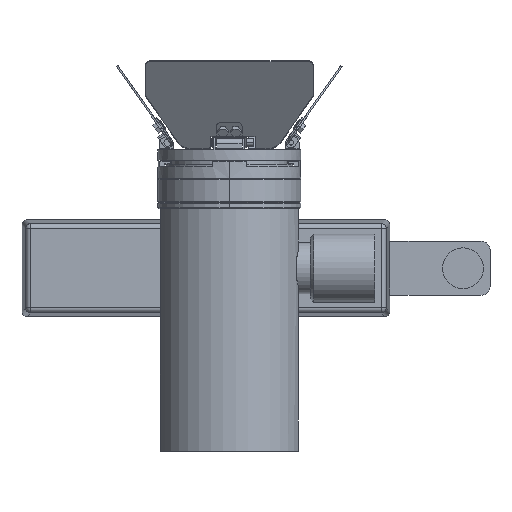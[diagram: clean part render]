
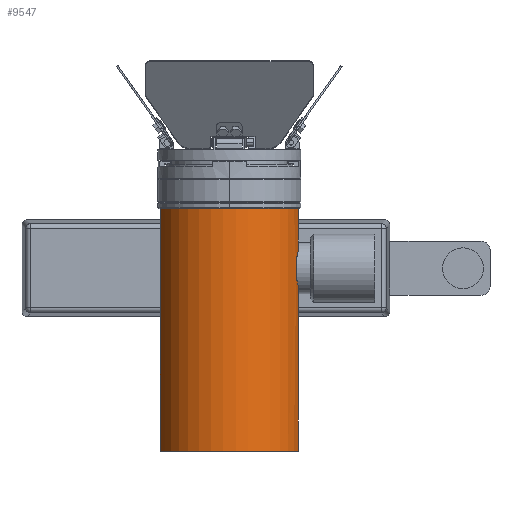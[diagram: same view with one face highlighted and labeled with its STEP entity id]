
A CAD part, front view. The second image highlights one B-rep face of the part: STEP entity #9547.
In plain terms, the highlighted cylindrical face has radius 42 mm (diameter 84 mm), a partial arc.
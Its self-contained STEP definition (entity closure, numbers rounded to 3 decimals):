
#46 = VERTEX_POINT ( 'NONE', #9077 ) ;
#49 = CARTESIAN_POINT ( 'NONE',  ( 39.387, 111.296, 14.586 ) ) ;
#91 = EDGE_CURVE ( 'NONE', #46, #3157, #10838, .T. ) ;
#111 = CARTESIAN_POINT ( 'NONE',  ( 40.367, 117.026, 11.61 ) ) ;
#169 = VERTEX_POINT ( 'NONE', #12995 ) ;
#731 = CARTESIAN_POINT ( 'NONE',  ( -40.5, 0., 11.124 ) ) ;
#997 = ORIENTED_EDGE ( 'NONE', *, *, #3403, .T. ) ;
#1183 = CARTESIAN_POINT ( 'NONE',  ( 39.406, 103.722, 14.535 ) ) ;
#1232 = CARTESIAN_POINT ( 'NONE',  ( 39.711, 101.328, 13.676 ) ) ;
#1360 = CARTESIAN_POINT ( 'NONE',  ( 39.3, 109.843, 14.816 ) ) ;
#1460 = CARTESIAN_POINT ( 'NONE',  ( 39.871, 114.626, 13.204 ) ) ;
#1465 = ORIENTED_EDGE ( 'NONE', *, *, #8514, .T. ) ;
#1781 = CIRCLE ( 'NONE', #13203, 42. ) ;
#2287 = VERTEX_POINT ( 'NONE', #731 ) ;
#2750 = DIRECTION ( 'NONE',  ( 0., -1., 0. ) ) ;
#2776 = EDGE_CURVE ( 'NONE', #46, #9219, #1781, .T. ) ;
#2971 = DIRECTION ( 'NONE',  ( 0., 0., -1. ) ) ;
#3157 = VERTEX_POINT ( 'NONE', #13248 ) ;
#3329 = CARTESIAN_POINT ( 'NONE',  ( -40.5, 142.5, 11.124 ) ) ;
#3403 = EDGE_CURVE ( 'NONE', #10327, #169, #8104, .T. ) ;
#3458 = CARTESIAN_POINT ( 'NONE',  ( 40.5, 97.438, 11.124 ) ) ;
#3502 = ORIENTED_EDGE ( 'NONE', *, *, #16046, .T. ) ;
#3679 = VECTOR ( 'NONE', #12052, 1000. ) ;
#3977 = DIRECTION ( 'NONE',  ( 0., -1., 0. ) ) ;
#3996 = CARTESIAN_POINT ( 'NONE',  ( 40.236, 116.458, 12.053 ) ) ;
#4043 = ORIENTED_EDGE ( 'NONE', *, *, #2776, .T. ) ;
#4165 = CARTESIAN_POINT ( 'NONE',  ( 0., 142.5, 0. ) ) ;
#4362 = ORIENTED_EDGE ( 'NONE', *, *, #6660, .F. ) ;
#4834 = VECTOR ( 'NONE', #3977, 1000. ) ;
#5038 = AXIS2_PLACEMENT_3D ( 'NONE', #4165, #5656, #2971 ) ;
#5324 = CARTESIAN_POINT ( 'NONE',  ( 40.5, 142.5, 11.124 ) ) ;
#5416 = EDGE_CURVE ( 'NONE', #7076, #3157, #10865, .T. ) ;
#5656 = DIRECTION ( 'NONE',  ( 0., -1., 0. ) ) ;
#5805 = CARTESIAN_POINT ( 'NONE',  ( 39.3, 142.5, 14.816 ) ) ;
#6102 = DIRECTION ( 'NONE',  ( 0., -1., 0. ) ) ;
#6368 = CARTESIAN_POINT ( 'NONE',  ( 39.661, 101.663, 13.822 ) ) ;
#6419 = CARTESIAN_POINT ( 'NONE',  ( 39.814, 114.303, 13.373 ) ) ;
#6520 = CIRCLE ( 'NONE', #9604, 42. ) ;
#6660 = EDGE_CURVE ( 'NONE', #7076, #169, #15110, .T. ) ;
#6983 = LINE ( 'NONE', #14929, #13400 ) ;
#7076 = VERTEX_POINT ( 'NONE', #11602 ) ;
#7316 = EDGE_LOOP ( 'NONE', ( #10465, #997, #4362, #8334, #14103, #4043, #1465, #3502 ) ) ;
#7602 = CARTESIAN_POINT ( 'NONE',  ( 39.523, 102.682, 14.21 ) ) ;
#8104 = B_SPLINE_CURVE_WITH_KNOTS ( 'NONE', 3,
 ( #13975, #8949, #15090, #1232, #6368, #15253, #7602, #1183, #11288, #11444 ),
 .UNSPECIFIED., .F., .F.,
 ( 4, 2, 2, 2, 4 ),
 ( 0., 0.004, 0.005, 0.007, 0.009 ),
 .UNSPECIFIED. ) ;
#8334 = ORIENTED_EDGE ( 'NONE', *, *, #5416, .T. ) ;
#8514 = EDGE_CURVE ( 'NONE', #9219, #2287, #6983, .T. ) ;
#8581 = FACE_OUTER_BOUND ( 'NONE', #7316, .T. ) ;
#8949 = CARTESIAN_POINT ( 'NONE',  ( 40.233, 98.511, 12.095 ) ) ;
#9077 = CARTESIAN_POINT ( 'NONE',  ( 40.5, 142.5, 11.124 ) ) ;
#9219 = VERTEX_POINT ( 'NONE', #3329 ) ;
#9318 = CARTESIAN_POINT ( 'NONE',  ( 40.5, 0., 11.124 ) ) ;
#9547 = ADVANCED_FACE ( 'NONE', ( #8581 ), #15574, .T. ) ;
#9604 = AXIS2_PLACEMENT_3D ( 'NONE', #16568, #12662, #11395 ) ;
#10327 = VERTEX_POINT ( 'NONE', #3458 ) ;
#10436 = CARTESIAN_POINT ( 'NONE',  ( 40.5, 142.5, 11.124 ) ) ;
#10465 = ORIENTED_EDGE ( 'NONE', *, *, #12118, .F. ) ;
#10838 = LINE ( 'NONE', #5324, #4834 ) ;
#10865 = B_SPLINE_CURVE_WITH_KNOTS ( 'NONE', 3,
 ( #1360, #49, #15486, #6419, #1460, #12802, #15398, #3996, #111, #14235 ),
 .UNSPECIFIED., .F., .F.,
 ( 4, 2, 2, 2, 4 ),
 ( 0., 0.004, 0.005, 0.007, 0.009 ),
 .UNSPECIFIED. ) ;
#11117 = VERTEX_POINT ( 'NONE', #9318 ) ;
#11288 = CARTESIAN_POINT ( 'NONE',  ( 39.343, 104.431, 14.701 ) ) ;
#11395 = DIRECTION ( 'NONE',  ( 0., 0., 1. ) ) ;
#11444 = CARTESIAN_POINT ( 'NONE',  ( 39.3, 105.157, 14.816 ) ) ;
#11602 = CARTESIAN_POINT ( 'NONE',  ( 39.3, 109.843, 14.816 ) ) ;
#12052 = DIRECTION ( 'NONE',  ( 0., -1., 0. ) ) ;
#12118 = EDGE_CURVE ( 'NONE', #10327, #11117, #12663, .T. ) ;
#12255 = VECTOR ( 'NONE', #2750, 1000. ) ;
#12662 = DIRECTION ( 'NONE',  ( 0., 1., 0. ) ) ;
#12663 = LINE ( 'NONE', #10436, #12255 ) ;
#12802 = CARTESIAN_POINT ( 'NONE',  ( 39.988, 115.255, 12.845 ) ) ;
#12995 = CARTESIAN_POINT ( 'NONE',  ( 39.3, 105.157, 14.816 ) ) ;
#13203 = AXIS2_PLACEMENT_3D ( 'NONE', #16490, #6102, #15008 ) ;
#13248 = CARTESIAN_POINT ( 'NONE',  ( 40.5, 117.562, 11.124 ) ) ;
#13400 = VECTOR ( 'NONE', #13852, 1000. ) ;
#13852 = DIRECTION ( 'NONE',  ( 0., -1., 0. ) ) ;
#13975 = CARTESIAN_POINT ( 'NONE',  ( 40.5, 97.438, 11.124 ) ) ;
#14103 = ORIENTED_EDGE ( 'NONE', *, *, #91, .F. ) ;
#14235 = CARTESIAN_POINT ( 'NONE',  ( 40.5, 117.562, 11.124 ) ) ;
#14929 = CARTESIAN_POINT ( 'NONE',  ( -40.5, 142.5, 11.124 ) ) ;
#15008 = DIRECTION ( 'NONE',  ( 0., 0., -1. ) ) ;
#15090 = CARTESIAN_POINT ( 'NONE',  ( 39.978, 99.698, 12.893 ) ) ;
#15110 = LINE ( 'NONE', #5805, #3679 ) ;
#15253 = CARTESIAN_POINT ( 'NONE',  ( 39.567, 102.34, 14.089 ) ) ;
#15398 = CARTESIAN_POINT ( 'NONE',  ( 40.049, 115.561, 12.655 ) ) ;
#15486 = CARTESIAN_POINT ( 'NONE',  ( 39.549, 112.672, 14.154 ) ) ;
#15574 = CYLINDRICAL_SURFACE ( 'NONE', #5038, 42. ) ;
#16046 = EDGE_CURVE ( 'NONE', #2287, #11117, #6520, .T. ) ;
#16490 = CARTESIAN_POINT ( 'NONE',  ( 0., 142.5, 0. ) ) ;
#16568 = CARTESIAN_POINT ( 'NONE',  ( 0., 0., 0. ) ) ;
